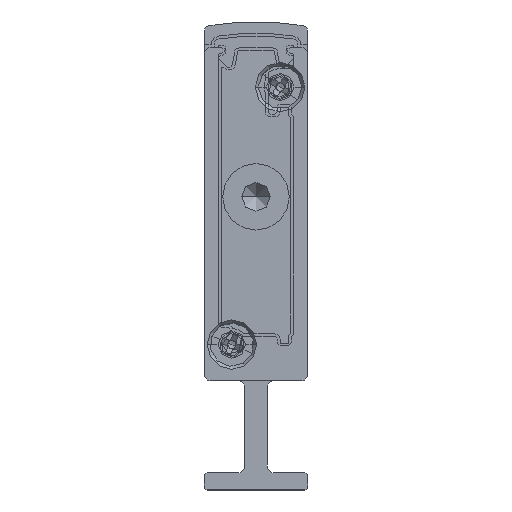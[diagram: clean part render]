
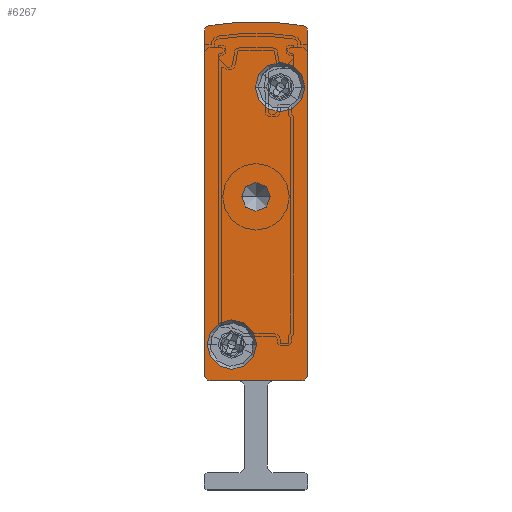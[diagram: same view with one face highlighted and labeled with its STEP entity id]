
A CAD part, front view. The second image highlights one B-rep face of the part: STEP entity #6267.
In plain terms, the highlighted planar face has unit normal (0, -1, 0).
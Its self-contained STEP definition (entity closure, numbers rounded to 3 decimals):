
#48 = DIRECTION ( 'NONE',  ( 0., -1., 0. ) ) ;
#90 = CIRCLE ( 'NONE', #21070, 1.25 ) ;
#286 = ORIENTED_EDGE ( 'NONE', *, *, #9799, .F. ) ;
#317 = CIRCLE ( 'NONE', #22247, 2.15 ) ;
#439 = CARTESIAN_POINT ( 'NONE',  ( 4.5, -2.5, 25.5 ) ) ;
#678 = VERTEX_POINT ( 'NONE', #14460 ) ;
#693 = EDGE_LOOP ( 'NONE', ( #19597, #27872, #989, #16851, #16500, #286, #13229, #11646 ) ) ;
#718 = CARTESIAN_POINT ( 'NONE',  ( 0.408, -2.5, 40.393 ) ) ;
#813 = EDGE_CURVE ( 'NONE', #30059, #6185, #25958, .T. ) ;
#989 = ORIENTED_EDGE ( 'NONE', *, *, #14037, .F. ) ;
#1465 = AXIS2_PLACEMENT_3D ( 'NONE', #15787, #26386, #7982 ) ;
#1476 = CARTESIAN_POINT ( 'NONE',  ( 9., -2.5, 39.902 ) ) ;
#1610 = AXIS2_PLACEMENT_3D ( 'NONE', #28924, #13461, #8591 ) ;
#1954 = CARTESIAN_POINT ( 'NONE',  ( 8.75, -2.5, 35.05 ) ) ;
#1964 = CIRCLE ( 'NONE', #6866, 0.5 ) ;
#2187 = CARTESIAN_POINT ( 'NONE',  ( 3.25, -2.5, 25.5 ) ) ;
#2396 = VECTOR ( 'NONE', #19714, 1000. ) ;
#2728 = AXIS2_PLACEMENT_3D ( 'NONE', #8373, #13578, #21166 ) ;
#2743 = EDGE_CURVE ( 'NONE', #8946, #5163, #14605, .T. ) ;
#2956 = EDGE_CURVE ( 'NONE', #22434, #3986, #23422, .T. ) ;
#3261 = VERTEX_POINT ( 'NONE', #1476 ) ;
#3986 = VERTEX_POINT ( 'NONE', #718 ) ;
#4408 = CIRCLE ( 'NONE', #2728, 23.658 ) ;
#4534 = LINE ( 'NONE', #15677, #10146 ) ;
#5163 = VERTEX_POINT ( 'NONE', #1954 ) ;
#5745 = EDGE_CURVE ( 'NONE', #11803, #17762, #7286, .T. ) ;
#5979 = CARTESIAN_POINT ( 'NONE',  ( 8.5, -2.5, 39.902 ) ) ;
#6139 = AXIS2_PLACEMENT_3D ( 'NONE', #22263, #24883, #9521 ) ;
#6185 = VERTEX_POINT ( 'NONE', #2187 ) ;
#6267 = ADVANCED_FACE ( 'NONE', ( #17605, #14321, #7074, #33358 ), #13192, .F. ) ;
#6712 = CARTESIAN_POINT ( 'NONE',  ( 0.5, -2.5, 9.5 ) ) ;
#6866 = AXIS2_PLACEMENT_3D ( 'NONE', #5979, #21449, #29547 ) ;
#7073 = ORIENTED_EDGE ( 'NONE', *, *, #5745, .F. ) ;
#7074 = FACE_OUTER_BOUND ( 'NONE', #693, .T. ) ;
#7286 = CIRCLE ( 'NONE', #13210, 2.15 ) ;
#7609 = CARTESIAN_POINT ( 'NONE',  ( 2.4, -2.5, 12.65 ) ) ;
#7982 = DIRECTION ( 'NONE',  ( -1., 0., 0. ) ) ;
#8087 = EDGE_CURVE ( 'NONE', #19253, #17387, #12836, .T. ) ;
#8359 = EDGE_CURVE ( 'NONE', #29655, #3261, #1964, .T. ) ;
#8373 = CARTESIAN_POINT ( 'NONE',  ( 4.5, -2.5, 17.092 ) ) ;
#8561 = AXIS2_PLACEMENT_3D ( 'NONE', #439, #10618, #20798 ) ;
#8591 = DIRECTION ( 'NONE',  ( -1., 0., 0. ) ) ;
#8946 = VERTEX_POINT ( 'NONE', #28101 ) ;
#9331 = CARTESIAN_POINT ( 'NONE',  ( 9., -2.5, 39.902 ) ) ;
#9521 = DIRECTION ( 'NONE',  ( -1., 0., 0. ) ) ;
#9799 = EDGE_CURVE ( 'NONE', #3261, #678, #32584, .T. ) ;
#10146 = VECTOR ( 'NONE', #10151, 1000. ) ;
#10151 = DIRECTION ( 'NONE',  ( 0., 0., 1. ) ) ;
#10618 = DIRECTION ( 'NONE',  ( 0., 1., 0. ) ) ;
#10963 = CARTESIAN_POINT ( 'NONE',  ( 6.6, -2.5, 35.05 ) ) ;
#11341 = DIRECTION ( 'NONE',  ( 0., -1., 0. ) ) ;
#11345 = ORIENTED_EDGE ( 'NONE', *, *, #2743, .F. ) ;
#11460 = EDGE_CURVE ( 'NONE', #678, #19253, #13425, .T. ) ;
#11646 = ORIENTED_EDGE ( 'NONE', *, *, #15081, .F. ) ;
#11803 = VERTEX_POINT ( 'NONE', #22464 ) ;
#11856 = EDGE_LOOP ( 'NONE', ( #27201, #7073 ) ) ;
#11877 = EDGE_CURVE ( 'NONE', #16689, #22434, #4534, .T. ) ;
#12463 = DIRECTION ( 'NONE',  ( 0., 1., 0. ) ) ;
#12836 = LINE ( 'NONE', #6712, #2396 ) ;
#12922 = DIRECTION ( 'NONE',  ( 1., 0., 0. ) ) ;
#13192 = PLANE ( 'NONE',  #1465 ) ;
#13210 = AXIS2_PLACEMENT_3D ( 'NONE', #30675, #48, #12922 ) ;
#13229 = ORIENTED_EDGE ( 'NONE', *, *, #8359, .F. ) ;
#13425 = CIRCLE ( 'NONE', #28869, 0.5 ) ;
#13461 = DIRECTION ( 'NONE',  ( 0., 1., 0. ) ) ;
#13578 = DIRECTION ( 'NONE',  ( 0., 1., 0. ) ) ;
#14037 = EDGE_CURVE ( 'NONE', #17387, #16689, #15568, .T. ) ;
#14321 = FACE_BOUND ( 'NONE', #11856, .T. ) ;
#14460 = CARTESIAN_POINT ( 'NONE',  ( 9., -2.5, 10. ) ) ;
#14605 = CIRCLE ( 'NONE', #32547, 2.15 ) ;
#14974 = DIRECTION ( 'NONE',  ( -1., 0., 0. ) ) ;
#15081 = EDGE_CURVE ( 'NONE', #3986, #29655, #4408, .T. ) ;
#15421 = DIRECTION ( 'NONE',  ( 0., 1., 0. ) ) ;
#15568 = CIRCLE ( 'NONE', #1610, 0.5 ) ;
#15677 = CARTESIAN_POINT ( 'NONE',  ( 0., -2.5, 39.902 ) ) ;
#15750 = DIRECTION ( 'NONE',  ( 0., -1., 0. ) ) ;
#15787 = CARTESIAN_POINT ( 'NONE',  ( 0.5, -2.5, 39.902 ) ) ;
#16131 = EDGE_CURVE ( 'NONE', #17762, #11803, #317, .T. ) ;
#16500 = ORIENTED_EDGE ( 'NONE', *, *, #11460, .F. ) ;
#16689 = VERTEX_POINT ( 'NONE', #23061 ) ;
#16693 = DIRECTION ( 'NONE',  ( 1., 0., 0. ) ) ;
#16851 = ORIENTED_EDGE ( 'NONE', *, *, #8087, .F. ) ;
#17387 = VERTEX_POINT ( 'NONE', #25873 ) ;
#17605 = FACE_BOUND ( 'NONE', #22202, .T. ) ;
#17762 = VERTEX_POINT ( 'NONE', #32398 ) ;
#17884 = ORIENTED_EDGE ( 'NONE', *, *, #813, .T. ) ;
#17931 = DIRECTION ( 'NONE',  ( -1., 0., 0. ) ) ;
#18244 = CARTESIAN_POINT ( 'NONE',  ( 0., -2.5, 39.902 ) ) ;
#18606 = CARTESIAN_POINT ( 'NONE',  ( 8.5, -2.5, 9.5 ) ) ;
#19253 = VERTEX_POINT ( 'NONE', #18606 ) ;
#19597 = ORIENTED_EDGE ( 'NONE', *, *, #2956, .F. ) ;
#19704 = EDGE_LOOP ( 'NONE', ( #27074, #17884 ) ) ;
#19714 = DIRECTION ( 'NONE',  ( -1., 0., 0. ) ) ;
#20569 = ORIENTED_EDGE ( 'NONE', *, *, #25176, .F. ) ;
#20608 = CARTESIAN_POINT ( 'NONE',  ( 8.5, -2.5, 10. ) ) ;
#20798 = DIRECTION ( 'NONE',  ( -1., 0., 0. ) ) ;
#21070 = AXIS2_PLACEMENT_3D ( 'NONE', #28032, #12463, #14974 ) ;
#21166 = DIRECTION ( 'NONE',  ( -1., 0., 0. ) ) ;
#21264 = VECTOR ( 'NONE', #24939, 1000. ) ;
#21449 = DIRECTION ( 'NONE',  ( 0., 1., 0. ) ) ;
#21478 = DIRECTION ( 'NONE',  ( 1., 0., 0. ) ) ;
#22202 = EDGE_LOOP ( 'NONE', ( #20569, #11345 ) ) ;
#22247 = AXIS2_PLACEMENT_3D ( 'NONE', #7609, #15750, #26033 ) ;
#22263 = CARTESIAN_POINT ( 'NONE',  ( 0.5, -2.5, 39.902 ) ) ;
#22434 = VERTEX_POINT ( 'NONE', #18244 ) ;
#22464 = CARTESIAN_POINT ( 'NONE',  ( 0.25, -2.5, 12.65 ) ) ;
#23061 = CARTESIAN_POINT ( 'NONE',  ( 0., -2.5, 10. ) ) ;
#23422 = CIRCLE ( 'NONE', #6139, 0.5 ) ;
#24883 = DIRECTION ( 'NONE',  ( 0., 1., 0. ) ) ;
#24939 = DIRECTION ( 'NONE',  ( 0., 0., -1. ) ) ;
#25176 = EDGE_CURVE ( 'NONE', #5163, #8946, #28780, .T. ) ;
#25873 = CARTESIAN_POINT ( 'NONE',  ( 0.5, -2.5, 9.5 ) ) ;
#25958 = CIRCLE ( 'NONE', #8561, 1.25 ) ;
#26033 = DIRECTION ( 'NONE',  ( 1., 0., 0. ) ) ;
#26386 = DIRECTION ( 'NONE',  ( 0., 1., 0. ) ) ;
#26570 = DIRECTION ( 'NONE',  ( 0., -1., 0. ) ) ;
#27074 = ORIENTED_EDGE ( 'NONE', *, *, #27969, .T. ) ;
#27201 = ORIENTED_EDGE ( 'NONE', *, *, #16131, .F. ) ;
#27872 = ORIENTED_EDGE ( 'NONE', *, *, #11877, .F. ) ;
#27969 = EDGE_CURVE ( 'NONE', #6185, #30059, #90, .T. ) ;
#28032 = CARTESIAN_POINT ( 'NONE',  ( 4.5, -2.5, 25.5 ) ) ;
#28101 = CARTESIAN_POINT ( 'NONE',  ( 4.45, -2.5, 35.05 ) ) ;
#28780 = CIRCLE ( 'NONE', #32406, 2.15 ) ;
#28869 = AXIS2_PLACEMENT_3D ( 'NONE', #20608, #15421, #17931 ) ;
#28924 = CARTESIAN_POINT ( 'NONE',  ( 0.5, -2.5, 10. ) ) ;
#29547 = DIRECTION ( 'NONE',  ( -1., 0., 0. ) ) ;
#29655 = VERTEX_POINT ( 'NONE', #31294 ) ;
#30059 = VERTEX_POINT ( 'NONE', #31872 ) ;
#30675 = CARTESIAN_POINT ( 'NONE',  ( 2.4, -2.5, 12.65 ) ) ;
#31294 = CARTESIAN_POINT ( 'NONE',  ( 8.592, -2.5, 40.393 ) ) ;
#31872 = CARTESIAN_POINT ( 'NONE',  ( 5.75, -2.5, 25.5 ) ) ;
#32172 = CARTESIAN_POINT ( 'NONE',  ( 6.6, -2.5, 35.05 ) ) ;
#32398 = CARTESIAN_POINT ( 'NONE',  ( 4.55, -2.5, 12.65 ) ) ;
#32406 = AXIS2_PLACEMENT_3D ( 'NONE', #32172, #11341, #16693 ) ;
#32547 = AXIS2_PLACEMENT_3D ( 'NONE', #10963, #26570, #21478 ) ;
#32584 = LINE ( 'NONE', #9331, #21264 ) ;
#33358 = FACE_BOUND ( 'NONE', #19704, .T. ) ;
